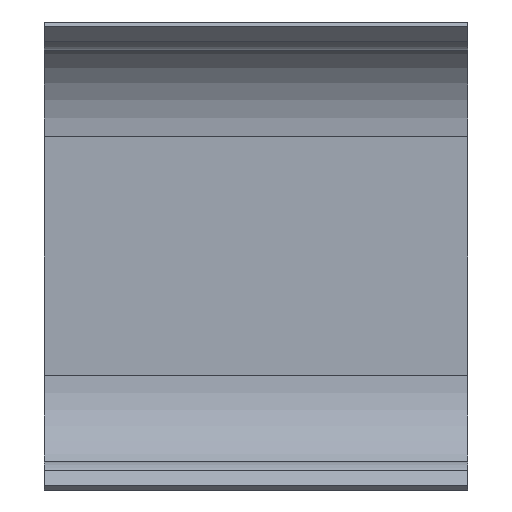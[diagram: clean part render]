
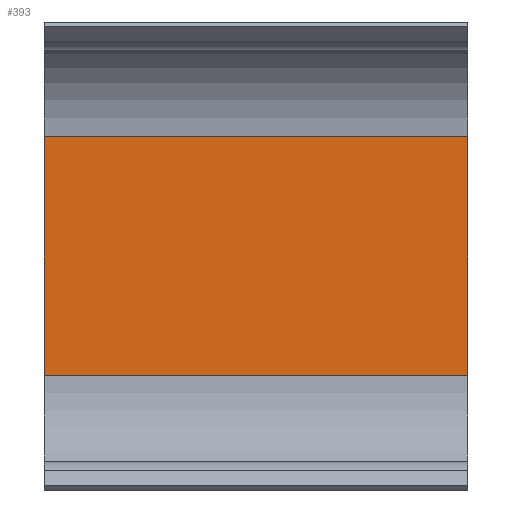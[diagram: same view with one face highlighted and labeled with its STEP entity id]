
A CAD part, front view. The second image highlights one B-rep face of the part: STEP entity #393.
In plain terms, the highlighted planar face has unit normal (0, -1, 0).
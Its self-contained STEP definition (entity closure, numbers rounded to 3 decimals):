
#10 = AXIS2_PLACEMENT_3D ( 'NONE', #269, #329, #274 ) ;
#36 = VERTEX_POINT ( 'NONE', #459 ) ;
#46 = VECTOR ( 'NONE', #530, 1000. ) ;
#102 = PLANE ( 'NONE',  #10 ) ;
#116 = LINE ( 'NONE', #351, #311 ) ;
#193 = EDGE_CURVE ( 'NONE', #475, #369, #707, .T. ) ;
#214 = FACE_OUTER_BOUND ( 'NONE', #333, .T. ) ;
#223 = EDGE_CURVE ( 'NONE', #36, #708, #259, .T. ) ;
#252 = ORIENTED_EDGE ( 'NONE', *, *, #539, .F. ) ;
#259 = LINE ( 'NONE', #314, #703 ) ;
#269 = CARTESIAN_POINT ( 'NONE',  ( 35.5, 18., 0. ) ) ;
#271 = EDGE_CURVE ( 'NONE', #369, #708, #322, .T. ) ;
#274 = DIRECTION ( 'NONE',  ( 0., 0., 1. ) ) ;
#310 = VECTOR ( 'NONE', #418, 1000. ) ;
#311 = VECTOR ( 'NONE', #460, 1000. ) ;
#314 = CARTESIAN_POINT ( 'NONE',  ( 35.5, 18., -40. ) ) ;
#322 = LINE ( 'NONE', #368, #310 ) ;
#329 = DIRECTION ( 'NONE',  ( 0., 1., 0. ) ) ;
#332 = CARTESIAN_POINT ( 'NONE',  ( -35.5, 18., 0. ) ) ;
#333 = EDGE_LOOP ( 'NONE', ( #682, #683, #252, #420 ) ) ;
#343 = CARTESIAN_POINT ( 'NONE',  ( 35.5, 18., 0. ) ) ;
#351 = CARTESIAN_POINT ( 'NONE',  ( 35.5, 18., 0. ) ) ;
#368 = CARTESIAN_POINT ( 'NONE',  ( -35.5, 18., 0. ) ) ;
#369 = VERTEX_POINT ( 'NONE', #332 ) ;
#376 = CARTESIAN_POINT ( 'NONE',  ( 35.5, 18., 0. ) ) ;
#393 = ADVANCED_FACE ( 'NONE', ( #214 ), #102, .F. ) ;
#418 = DIRECTION ( 'NONE',  ( 0., 0., -1. ) ) ;
#420 = ORIENTED_EDGE ( 'NONE', *, *, #193, .T. ) ;
#459 = CARTESIAN_POINT ( 'NONE',  ( 35.5, 18., -40. ) ) ;
#460 = DIRECTION ( 'NONE',  ( 0., 0., -1. ) ) ;
#475 = VERTEX_POINT ( 'NONE', #343 ) ;
#530 = DIRECTION ( 'NONE',  ( -1., 0., 0. ) ) ;
#539 = EDGE_CURVE ( 'NONE', #475, #36, #116, .T. ) ;
#648 = DIRECTION ( 'NONE',  ( -1., 0., 0. ) ) ;
#682 = ORIENTED_EDGE ( 'NONE', *, *, #271, .T. ) ;
#683 = ORIENTED_EDGE ( 'NONE', *, *, #223, .F. ) ;
#703 = VECTOR ( 'NONE', #648, 1000. ) ;
#707 = LINE ( 'NONE', #376, #46 ) ;
#708 = VERTEX_POINT ( 'NONE', #724 ) ;
#724 = CARTESIAN_POINT ( 'NONE',  ( -35.5, 18., -40. ) ) ;
